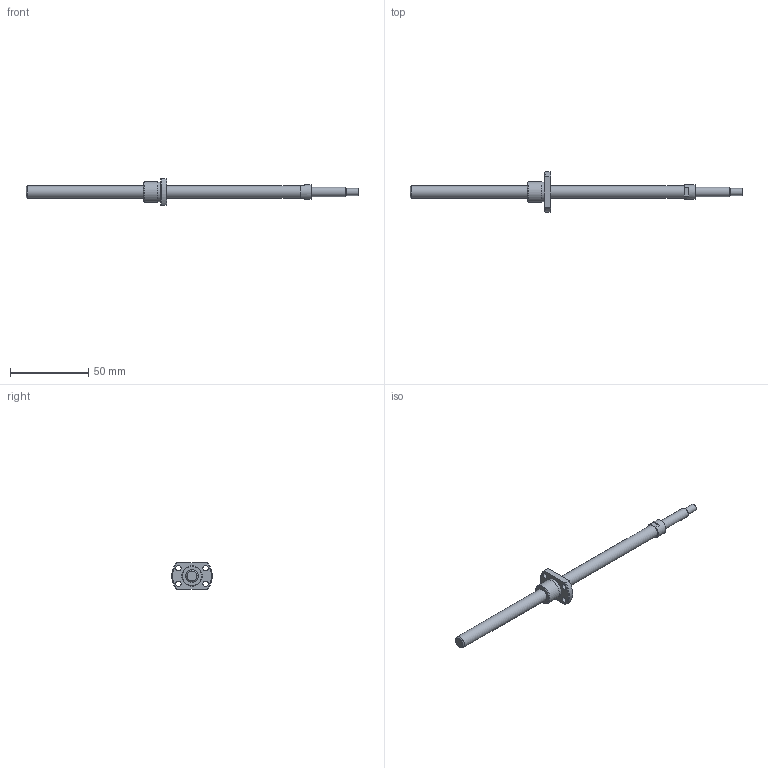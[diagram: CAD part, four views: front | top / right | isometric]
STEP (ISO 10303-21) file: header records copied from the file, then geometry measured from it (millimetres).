
FILE_DESCRIPTION(/* description */ ('STEP AP214'),/* implementation_level */ '2;1');
FILE_NAME(/* name */ 'SRT0801K-171R212C7A0X(A75Processing0X)',/* time_stamp */ '2026-08-04T19:56:14+02:00',/* author */ ('License CC BY-ND 4.0'),/* organization */ ('CADENAS'),/* preprocessor_version */ 'ST-DEVELOPER v20',/* originating_system */ 'PARTsolutions',/* authorisation */ ' ');
FILE_SCHEMA (('AUTOMOTIVE_DESIGN {1 0 10303 214 3 1 1}'));
Length unit declared in the file: millimetre
Products named in the file (3): SRT0801K-171R212C7A0X(A75Processing0X); 6AProcessing212; SR0801K_nut
Assembly tree (2 placements, depth 2):
  SRT0801K-171R212C7A0X(A75Processing0X)
    6AProcessing212
    SR0801K_nut
Bounding box: 212 x 25.92 x 17 mm (x, y, z)
Volume: 12185.1 mm3; surface area: 7182.1 mm2
Topology: 2 solids, 2 shells, 36 faces, 78 edges, 50 vertices
Faces by surface type: plane 16, cylinder 13, cone 7
Full cylindrical faces by diameter (mm): 3.4 x4, 4.5 x1, 6 x1, 8 x2, 9.5 x1, 12.6 x1, 13 x1
Entity records: 1015 total; most frequent: CARTESIAN_POINT 175, DIRECTION 170, ORIENTED_EDGE 126, AXIS2_PLACEMENT_3D 76, EDGE_LOOP 64, FACE_BOUND 64, EDGE_CURVE 63, VERTEX_POINT 49
